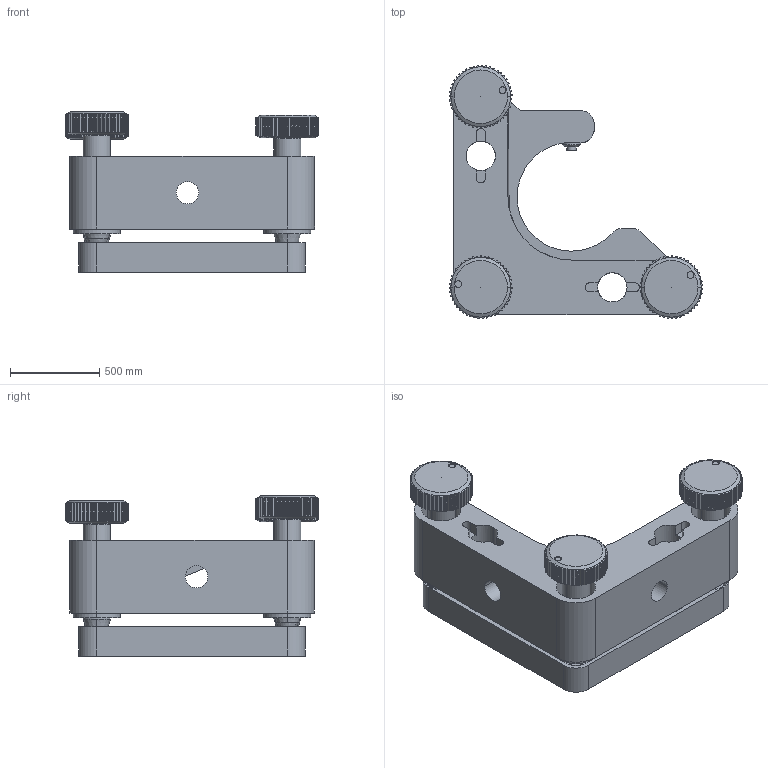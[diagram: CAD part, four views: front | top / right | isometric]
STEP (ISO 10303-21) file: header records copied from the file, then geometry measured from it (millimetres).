
FILE_DESCRIPTION (( 'STEP AP214' ), '1' );
FILE_NAME ('5MBM24-1-3_be_logo.STEP', '2009-05-18T11:50:24', ( 'ramunas' ), ( '' ), 'SwSTEP 2.0', 'SolidWorks 2003240', '' );
FILE_SCHEMA (( 'AUTOMOTIVE_DESIGN' ));
Length unit declared in the file: inch
Products named in the file (1): 5MBM24-1-3_be_logo
Bounding box: 1417.02 x 1417.13 x 897.15 mm (x, y, z)
Volume: 424122574.2 mm3; surface area: 8829614.2 mm2
Topology: 1 solids, 10 shells, 1221 faces, 3492 edges, 2297 vertices
Faces by surface type: cylinder 754, plane 378, cone 82, bspline 7
Entity records: 48455 total; most frequent: CARTESIAN_POINT 19195, ORIENTED_EDGE 6944, DIRECTION 4958, EDGE_CURVE 3472, VERTEX_POINT 2297, AXIS2_PLACEMENT_3D 1854, B_SPLINE_CURVE_WITH_KNOTS 1579, EDGE_LOOP 1273
